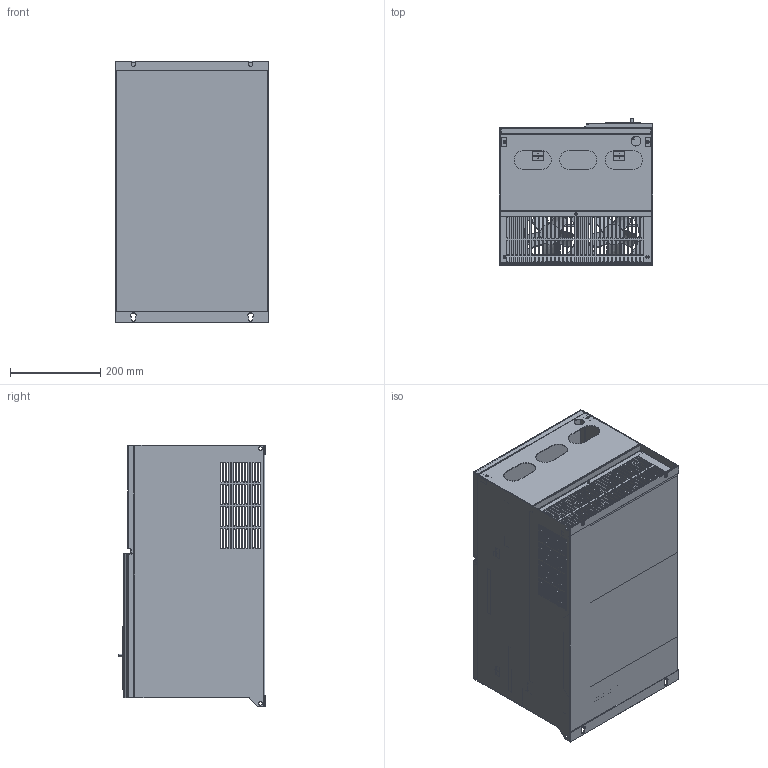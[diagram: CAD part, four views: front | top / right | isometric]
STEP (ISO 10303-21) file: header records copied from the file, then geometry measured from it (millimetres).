
FILE_DESCRIPTION (( 'STEP AP214' ), '1' );
FILE_NAME ('ﾂ-90ﾊ-ﾍ75ﾊ-380-0-0; ﾂ-110ﾊ-ﾍ90ﾊ-380-0-0; ﾂ-132ﾊ-ﾍ110ﾊ-380-0-0.STEP', '2022-06-04T08:33:59', ( '' ), ( '' ), 'SwSTEP 2.0', 'SolidWorks 2018', '' );
FILE_SCHEMA (( 'AUTOMOTIVE_DESIGN' ));
Length unit declared in the file: millimetre
Products named in the file (48): E102-075-310___ _____________ _____________^E102-075-310_ASM_E102-075-201_ASM_ﾂ-90ﾊ-ﾍ75ﾊ-380-0-0; ﾂ-110ﾊ-ﾍ90ﾊ-380-0-0; ﾂ-132ﾊ-ﾍ110ﾊ-380-0-0(2)_ﾂ-90ﾊ-ﾍ75ﾊ-380-0-0; ﾂ-110ﾊ-ﾍ90ﾊ-380-0-0; ﾂ-132ﾊ~; E102-075-301_ASM^E102-075-201_ASM_ﾂ-90ﾊ-ﾍ75ﾊ-380-0-0; ﾂ-110ﾊ-ﾍ90ﾊ-380-0-0; ﾂ-132ﾊ-ﾍ110ﾊ-380-0-0(2)_ﾂ-90ﾊ-ﾍ75ﾊ-380-0-0; ﾂ-110ﾊ-ﾍ90ﾊ-380-0-0; ﾂ-132ﾊ-ﾍ110ﾊ-380-0-0; E102-075-311___ _____________ _____________^E102-075-311_ASM_ﾂ-90ﾊ-ﾍ75ﾊ-380-0-0; ﾂ-110ﾊ-ﾍ90ﾊ-380-0-0; ﾂ-132ﾊ-ﾍ110ﾊ-380-0-0(2)_ﾂ-90ﾊ-ﾍ75ﾊ-380-0-0; ﾂ-110ﾊ-ﾍ90ﾊ-380-0-0; ﾂ-132ﾊ-ﾍ110ﾊ-380-0-0; E180-018-305_ASM_2^E102-075-201_ASM_ﾂ-90ﾊ-ﾍ75ﾊ-380-0-0; ﾂ-110ﾊ-ﾍ90ﾊ-380-0-0; ﾂ-132ﾊ-ﾍ110ﾊ-380-0-0(2)_ﾂ-90ﾊ-ﾍ75ﾊ-380-0-0; ﾂ-110ﾊ-ﾍ90ﾊ-380-0-0; ﾂ-132ﾊ-ﾍ110ﾊ-380-0-0; S-M4-1_3___ _____________ _____________^E102-075-301_ASM_E102-075-201_ASM_ﾂ-90ﾊ-ﾍ75ﾊ-380-0-0; ﾂ-110ﾊ-ﾍ90ﾊ-380-0-0; ﾂ-132ﾊ-ﾍ110ﾊ-380-0-0(2)_ﾂ-90ﾊ-ﾍ75ﾊ-380-0-0; ﾂ-110ﾊ-ﾍ90ﾊ-380-0-0; ﾂ-132ﾊ-ﾍ11~; E102-075-318_A1_ASM^ﾂ-90ﾊ-ﾍ75ﾊ-380-0-0; ﾂ-110ﾊ-ﾍ90ﾊ-380-0-0; ﾂ-132ﾊ-ﾍ110ﾊ-380-0-0(2)_ﾂ-90ﾊ-ﾍ75ﾊ-380-0-0; ﾂ-110ﾊ-ﾍ90ﾊ-380-0-0; ﾂ-132ﾊ-ﾍ110ﾊ-380-0-0; E180-018-305_2___ _____________ _____________^E180-018-305_ASM_2_E102-075-201_ASM_ﾂ-90ﾊ-ﾍ75ﾊ-380-0-0; ﾂ-110ﾊ-ﾍ90ﾊ-380-0-0; ﾂ-132ﾊ-ﾍ110ﾊ-380-0-0(2)_ﾂ-90ﾊ-ﾍ75ﾊ-380-0-0; ﾂ-110ﾊ-ﾍ90ﾊ-380-0-0; ﾂ-~; E102-075-301___ _____________ _____________^E102-075-301_ASM_E102-075-201_ASM_ﾂ-90ﾊ-ﾍ75ﾊ-380-0-0; ﾂ-110ﾊ-ﾍ90ﾊ-380-0-0; ﾂ-132ﾊ-ﾍ110ﾊ-380-0-0(2)_ﾂ-90ﾊ-ﾍ75ﾊ-380-0-0; ﾂ-110ﾊ-ﾍ90ﾊ-380-0-0; ﾂ-132ﾊ~; E102-075-318_A1___ _____________ _____________^E102-075-318_A1_ASM_ﾂ-90ﾊ-ﾍ75ﾊ-380-0-0; ﾂ-110ﾊ-ﾍ90ﾊ-380-0-0; ﾂ-132ﾊ-ﾍ110ﾊ-380-0-0(2)_ﾂ-90ﾊ-ﾍ75ﾊ-380-0-0; ﾂ-110ﾊ-ﾍ90ﾊ-380-0-0; ﾂ-132ﾊ-ﾍ110ﾊ-380-~; E102-075-309_ASM^E102-075-201_ASM_ﾂ-90ﾊ-ﾍ75ﾊ-380-0-0; ﾂ-110ﾊ-ﾍ90ﾊ-380-0-0; ﾂ-132ﾊ-ﾍ110ﾊ-380-0-0(2)_ﾂ-90ﾊ-ﾍ75ﾊ-380-0-0; ﾂ-110ﾊ-ﾍ90ﾊ-380-0-0; ﾂ-132ﾊ-ﾍ110ﾊ-380-0-0; CDI-9200_ASM_1^ﾂ-90ﾊ-ﾍ75ﾊ-380-0-0; ﾂ-110ﾊ-ﾍ90ﾊ-380-0-0; ﾂ-132ﾊ-ﾍ110ﾊ-380-0-0(2)_ﾂ-90ﾊ-ﾍ75ﾊ-380-0-0; ﾂ-110ﾊ-ﾍ90ﾊ-380-0-0; ﾂ-132ﾊ-ﾍ110ﾊ-380-0-0; E102-075-309___ _____________ _____________^E102-075-309_ASM_E102-075-201_ASM_ﾂ-90ﾊ-ﾍ75ﾊ-380-0-0; ﾂ-110ﾊ-ﾍ90ﾊ-380-0-0; ﾂ-132ﾊ-ﾍ110ﾊ-380-0-0(2)_ﾂ-90ﾊ-ﾍ75ﾊ-380-0-0; ﾂ-110ﾊ-ﾍ90ﾊ-380-0-0; ﾂ-132ﾊ~; ﾂ-90ﾊ-ﾍ75ﾊ-380-0-0; ﾂ-110ﾊ-ﾍ90ﾊ-380-0-0; ﾂ-132ﾊ-ﾍ110ﾊ-380-0-0; CDI-9200-805_1___ _____________ _____________^CDI-9200_ASM_1_ﾂ-90ﾊ-ﾍ75ﾊ-380-0-0; ﾂ-110ﾊ-ﾍ90ﾊ-380-0-0; ﾂ-132ﾊ-ﾍ110ﾊ-380-0-0(2)_ﾂ-90ﾊ-ﾍ75ﾊ-380-0-0; ﾂ-110ﾊ-ﾍ90ﾊ-380-0-0; ﾂ-132ﾊ-ﾍ110ﾊ-380-0-0; E102-075-308_ASM^E102-075-201_ASM_ﾂ-90ﾊ-ﾍ75ﾊ-380-0-0; ﾂ-110ﾊ-ﾍ90ﾊ-380-0-0; ﾂ-132ﾊ-ﾍ110ﾊ-380-0-0(2)_ﾂ-90ﾊ-ﾍ75ﾊ-380-0-0; ﾂ-110ﾊ-ﾍ90ﾊ-380-0-0; ﾂ-132ﾊ-ﾍ110ﾊ-380-0-0; CDI-9200_PD_1___ _____________ _____________^CDI-9200_ASM_1_ﾂ-90ﾊ-ﾍ75ﾊ-380-0-0; ﾂ-110ﾊ-ﾍ90ﾊ-380-0-0; ﾂ-132ﾊ-ﾍ110ﾊ-380-0-0(2)_ﾂ-90ﾊ-ﾍ75ﾊ-380-0-0; ﾂ-110ﾊ-ﾍ90ﾊ-380-0-0; ﾂ-132ﾊ-ﾍ110ﾊ-380-0-0; S-M4-1_3___ _____________ _____________^E102-075-308_ASM_E102-075-201_ASM_ﾂ-90ﾊ-ﾍ75ﾊ-380-0-0; ﾂ-110ﾊ-ﾍ90ﾊ-380-0-0; ﾂ-132ﾊ-ﾍ110ﾊ-380-0-0(2)_ﾂ-90ﾊ-ﾍ75ﾊ-380-0-0; ﾂ-110ﾊ-ﾍ90ﾊ-380-0-0; ﾂ-132ﾊ-ﾍ11~; CDI-9200_2___ _____________ _____________^CDI-9200_ASM_1_ﾂ-90ﾊ-ﾍ75ﾊ-380-0-0; ﾂ-110ﾊ-ﾍ90ﾊ-380-0-0; ﾂ-132ﾊ-ﾍ110ﾊ-380-0-0(2)_ﾂ-90ﾊ-ﾍ75ﾊ-380-0-0; ﾂ-110ﾊ-ﾍ90ﾊ-380-0-0; ﾂ-132ﾊ-ﾍ110ﾊ-380-0-0; E102-075-308___ _____________ _____________^E102-075-308_ASM_E102-075-201_ASM_ﾂ-90ﾊ-ﾍ75ﾊ-380-0-0; ﾂ-110ﾊ-ﾍ90ﾊ-380-0-0; ﾂ-132ﾊ-ﾍ110ﾊ-380-0-0(2)_ﾂ-90ﾊ-ﾍ75ﾊ-380-0-0; ﾂ-110ﾊ-ﾍ90ﾊ-380-0-0; ﾂ-132ﾊ~; CDI-9200-803_F1_2___ _____________ _____________^CDI-9200_ASM_1_ﾂ-90ﾊ-ﾍ75ﾊ-380-0-0; ﾂ-110ﾊ-ﾍ90ﾊ-380-0-0; ﾂ-132ﾊ-ﾍ110ﾊ-380-0-0(2)_ﾂ-90ﾊ-ﾍ75ﾊ-380-0-0; ﾂ-110ﾊ-ﾍ90ﾊ-380-0-0; ﾂ-132ﾊ-ﾍ110ﾊ-380-0-0; E102-075-305_ASM^E102-075-201_ASM_ﾂ-90ﾊ-ﾍ75ﾊ-380-0-0; ﾂ-110ﾊ-ﾍ90ﾊ-380-0-0; ﾂ-132ﾊ-ﾍ110ﾊ-380-0-0(2)_ﾂ-90ﾊ-ﾍ75ﾊ-380-0-0; ﾂ-110ﾊ-ﾍ90ﾊ-380-0-0; ﾂ-132ﾊ-ﾍ110ﾊ-380-0-0; CDI-9200-802_1___ _____________ _____________^CDI-9200_ASM_1_ﾂ-90ﾊ-ﾍ75ﾊ-380-0-0; ﾂ-110ﾊ-ﾍ90ﾊ-380-0-0; ﾂ-132ﾊ-ﾍ110ﾊ-380-0-0(2)_ﾂ-90ﾊ-ﾍ75ﾊ-380-0-0; ﾂ-110ﾊ-ﾍ90ﾊ-380-0-0; ﾂ-132ﾊ-ﾍ110ﾊ-380-0-0; S-M4-1_3___ _____________ _____________^E102-075-305_ASM_E102-075-201_ASM_ﾂ-90ﾊ-ﾍ75ﾊ-380-0-0; ﾂ-110ﾊ-ﾍ90ﾊ-380-0-0; ﾂ-132ﾊ-ﾍ110ﾊ-380-0-0(2)_ﾂ-90ﾊ-ﾍ75ﾊ-380-0-0; ﾂ-110ﾊ-ﾍ90ﾊ-380-0-0; ﾂ-132ﾊ-ﾍ11~; CDI-9200-801_1___ _____________ _____________^CDI-9200_ASM_1_ﾂ-90ﾊ-ﾍ75ﾊ-380-0-0; ﾂ-110ﾊ-ﾍ90ﾊ-380-0-0; ﾂ-132ﾊ-ﾍ110ﾊ-380-0-0(2)_ﾂ-90ﾊ-ﾍ75ﾊ-380-0-0; ﾂ-110ﾊ-ﾍ90ﾊ-380-0-0; ﾂ-132ﾊ-ﾍ110ﾊ-380-0-0; E102-075-305___ _____________ _____________^E102-075-305_ASM_E102-075-201_ASM_ﾂ-90ﾊ-ﾍ75ﾊ-380-0-0; ﾂ-110ﾊ-ﾍ90ﾊ-380-0-0; ﾂ-132ﾊ-ﾍ110ﾊ-380-0-0(2)_ﾂ-90ﾊ-ﾍ75ﾊ-380-0-0; ﾂ-110ﾊ-ﾍ90ﾊ-380-0-0; ﾂ-132ﾊ~; E102-075-314_ASM^ﾂ-90ﾊ-ﾍ75ﾊ-380-0-0; ﾂ-110ﾊ-ﾍ90ﾊ-380-0-0; ﾂ-132ﾊ-ﾍ110ﾊ-380-0-0(2)_ﾂ-90ﾊ-ﾍ75ﾊ-380-0-0; ﾂ-110ﾊ-ﾍ90ﾊ-380-0-0; ﾂ-132ﾊ-ﾍ110ﾊ-380-0-0; E102-075-304_ASM^E102-075-201_ASM_ﾂ-90ﾊ-ﾍ75ﾊ-380-0-0; ﾂ-110ﾊ-ﾍ90ﾊ-380-0-0; ﾂ-132ﾊ-ﾍ110ﾊ-380-0-0(2)_ﾂ-90ﾊ-ﾍ75ﾊ-380-0-0; ﾂ-110ﾊ-ﾍ90ﾊ-380-0-0; ﾂ-132ﾊ-ﾍ110ﾊ-380-0-0; E102-075-314___ _____________ _____________^E102-075-314_ASM_ﾂ-90ﾊ-ﾍ75ﾊ-380-0-0; ﾂ-110ﾊ-ﾍ90ﾊ-380-0-0; ﾂ-132ﾊ-ﾍ110ﾊ-380-0-0(2)_ﾂ-90ﾊ-ﾍ75ﾊ-380-0-0; ﾂ-110ﾊ-ﾍ90ﾊ-380-0-0; ﾂ-132ﾊ-ﾍ110ﾊ-380-0-0; S-M4-1_3___ _____________ _____________^E102-075-304_ASM_E102-075-201_ASM_ﾂ-90ﾊ-ﾍ75ﾊ-380-0-0; ﾂ-110ﾊ-ﾍ90ﾊ-380-0-0; ﾂ-132ﾊ-ﾍ110ﾊ-380-0-0(2)_ﾂ-90ﾊ-ﾍ75ﾊ-380-0-0; ﾂ-110ﾊ-ﾍ90ﾊ-380-0-0; ﾂ-132ﾊ-ﾍ11~; E102-075-317_ASM^ﾂ-90ﾊ-ﾍ75ﾊ-380-0-0; ﾂ-110ﾊ-ﾍ90ﾊ-380-0-0; ﾂ-132ﾊ-ﾍ110ﾊ-380-0-0(2)_ﾂ-90ﾊ-ﾍ75ﾊ-380-0-0; ﾂ-110ﾊ-ﾍ90ﾊ-380-0-0; ﾂ-132ﾊ-ﾍ110ﾊ-380-0-0; E102-075-304___ _____________ _____________^E102-075-304_ASM_E102-075-201_ASM_ﾂ-90ﾊ-ﾍ75ﾊ-380-0-0; ﾂ-110ﾊ-ﾍ90ﾊ-380-0-0; ﾂ-132ﾊ-ﾍ110ﾊ-380-0-0(2)_ﾂ-90ﾊ-ﾍ75ﾊ-380-0-0; ﾂ-110ﾊ-ﾍ90ﾊ-380-0-0; ﾂ-132ﾊ~; E102-075-317___ _____________ _____________^E102-075-317_ASM_ﾂ-90ﾊ-ﾍ75ﾊ-380-0-0; ﾂ-110ﾊ-ﾍ90ﾊ-380-0-0; ﾂ-132ﾊ-ﾍ110ﾊ-380-0-0(2)_ﾂ-90ﾊ-ﾍ75ﾊ-380-0-0; ﾂ-110ﾊ-ﾍ90ﾊ-380-0-0; ﾂ-132ﾊ-ﾍ110ﾊ-380-0-0; E102-075-303_ASM^E102-075-201_ASM_ﾂ-90ﾊ-ﾍ75ﾊ-380-0-0; ﾂ-110ﾊ-ﾍ90ﾊ-380-0-0; ﾂ-132ﾊ-ﾍ110ﾊ-380-0-0(2)_ﾂ-90ﾊ-ﾍ75ﾊ-380-0-0; ﾂ-110ﾊ-ﾍ90ﾊ-380-0-0; ﾂ-132ﾊ-ﾍ110ﾊ-380-0-0; E102-075-201_ASM^ﾂ-90ﾊ-ﾍ75ﾊ-380-0-0; ﾂ-110ﾊ-ﾍ90ﾊ-380-0-0; ﾂ-132ﾊ-ﾍ110ﾊ-380-0-0(2)_ﾂ-90ﾊ-ﾍ75ﾊ-380-0-0; ﾂ-110ﾊ-ﾍ90ﾊ-380-0-0; ﾂ-132ﾊ-ﾍ110ﾊ-380-0-0; S-M4-1_3___ _____________ _____________^E102-075-303_ASM_E102-075-201_ASM_ﾂ-90ﾊ-ﾍ75ﾊ-380-0-0; ﾂ-110ﾊ-ﾍ90ﾊ-380-0-0; ﾂ-132ﾊ-ﾍ110ﾊ-380-0-0(2)_ﾂ-90ﾊ-ﾍ75ﾊ-380-0-0; ﾂ-110ﾊ-ﾍ90ﾊ-380-0-0; ﾂ-132ﾊ-ﾍ110~; E102-075-307___ _____________ _____________^E102-075-201_ASM_ﾂ-90ﾊ-ﾍ75ﾊ-380-0-0; ﾂ-110ﾊ-ﾍ90ﾊ-380-0-0; ﾂ-132ﾊ-ﾍ110ﾊ-380-0-0(2)_ﾂ-90ﾊ-ﾍ75ﾊ-380-0-0; ﾂ-110ﾊ-ﾍ90ﾊ-380-0-0; ﾂ-132ﾊ-ﾍ110ﾊ-380-0-0; E102-075-303___ _____________ _____________^E102-075-303_ASM_E102-075-201_ASM_ﾂ-90ﾊ-ﾍ75ﾊ-380-0-0; ﾂ-110ﾊ-ﾍ90ﾊ-380-0-0; ﾂ-132ﾊ-ﾍ110ﾊ-380-0-0(2)_ﾂ-90ﾊ-ﾍ75ﾊ-380-0-0; ﾂ-110ﾊ-ﾍ90ﾊ-380-0-0; ﾂ-132ﾊ-~; ﾂ-90ﾊ-ﾍ75ﾊ-380-0-0; ﾂ-110ﾊ-ﾍ90ﾊ-380-0-0; ﾂ-132ﾊ-ﾍ110ﾊ-380-0-0(2)^ﾂ-90ﾊ-ﾍ75ﾊ-380-0-0; ﾂ-110ﾊ-ﾍ90ﾊ-380-0-0; ﾂ-132ﾊ-ﾍ110ﾊ-380-0-0; E102-075-306___ _____________ _____________^E102-075-201_ASM_ﾂ-90ﾊ-ﾍ75ﾊ-380-0-0; ﾂ-110ﾊ-ﾍ90ﾊ-380-0-0; ﾂ-132ﾊ-ﾍ110ﾊ-380-0-0(2)_ﾂ-90ﾊ-ﾍ75ﾊ-380-0-0; ﾂ-110ﾊ-ﾍ90ﾊ-380-0-0; ﾂ-132ﾊ-ﾍ110ﾊ-380-0-0; E102-075-302_ASM^E102-075-201_ASM_ﾂ-90ﾊ-ﾍ75ﾊ-380-0-0; ﾂ-110ﾊ-ﾍ90ﾊ-380-0-0; ﾂ-132ﾊ-ﾍ110ﾊ-380-0-0(2)_ﾂ-90ﾊ-ﾍ75ﾊ-380-0-0; ﾂ-110ﾊ-ﾍ90ﾊ-380-0-0; ﾂ-132ﾊ-ﾍ110ﾊ-380-0-0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
Assembly tree (88 placements, depth 5):
  ﾂ-90ﾊ-ﾍ75ﾊ-380-0-0; ﾂ-110ﾊ-ﾍ90ﾊ-380-0-0; ﾂ-132ﾊ-ﾍ110ﾊ-380-0-0
    ﾂ-90ﾊ-ﾍ75ﾊ-380-0-0; ﾂ-110ﾊ-ﾍ90ﾊ-380-0-0; ﾂ-132ﾊ-ﾍ110ﾊ-380-0-0(2)^ﾂ-90ﾊ-ﾍ75ﾊ-380-0-0; ﾂ-110ﾊ-ﾍ90ﾊ-380-0-0; ﾂ-132ﾊ-ﾍ110ﾊ-380-0-0
      E102-075-201_ASM^ﾂ-90ﾊ-ﾍ75ﾊ-380-0-0; ﾂ-110ﾊ-ﾍ90ﾊ-380-0-0; ﾂ-132ﾊ-ﾍ110ﾊ-380-0-0(2)_ﾂ-90ﾊ-ﾍ75ﾊ-380-0-0; ﾂ-110ﾊ-ﾍ90ﾊ-380-0-0; ﾂ-132ﾊ-ﾍ110ﾊ-380-0-0
        E102-075-301_ASM^E102-075-201_ASM_ﾂ-90ﾊ-ﾍ75ﾊ-380-0-0; ﾂ-110ﾊ-ﾍ90ﾊ-380-0-0; ﾂ-132ﾊ-ﾍ110ﾊ-380-0-0(2)_ﾂ-90ﾊ-ﾍ75ﾊ-380-0-0; ﾂ-110ﾊ-ﾍ90ﾊ-380-0-0; ﾂ-132ﾊ-ﾍ110ﾊ-380-0-0
          E102-075-301___ _____________ _____________^E102-075-301_ASM_E102-075-201_ASM_ﾂ-90ﾊ-ﾍ75ﾊ-380-0-0; ﾂ-110ﾊ-ﾍ90ﾊ-380-0-0; ﾂ-132ﾊ-ﾍ110ﾊ-380-0-0(2)_ﾂ-90ﾊ-ﾍ75ﾊ-380-0-0; ﾂ-110ﾊ-ﾍ90ﾊ-380-0-0; ﾂ-132ﾊ~
          S-M4-1_3___ _____________ _____________^E102-075-301_ASM_E102-075-201_ASM_ﾂ-90ﾊ-ﾍ75ﾊ-380-0-0; ﾂ-110ﾊ-ﾍ90ﾊ-380-0-0; ﾂ-132ﾊ-ﾍ110ﾊ-380-0-0(2)_ﾂ-90ﾊ-ﾍ75ﾊ-380-0-0; ﾂ-110ﾊ-ﾍ90ﾊ-380-0-0; ﾂ-132ﾊ-ﾍ11~  x2
        E102-075-302_ASM^E102-075-201_ASM_ﾂ-90ﾊ-ﾍ75ﾊ-380-0-0; ﾂ-110ﾊ-ﾍ90ﾊ-380-0-0; ﾂ-132ﾊ-ﾍ110ﾊ-380-0-0(2)_ﾂ-90ﾊ-ﾍ75ﾊ-380-0-0; ﾂ-110ﾊ-ﾍ90ﾊ-380-0-0; ﾂ-132ﾊ-ﾍ110ﾊ-380-0-0
          E102-075-302___ _____________ _____________^E102-075-302_ASM_E102-075-201_ASM_ﾂ-90ﾊ-ﾍ75ﾊ-380-0-0; ﾂ-110ﾊ-ﾍ90ﾊ-380-0-0; ﾂ-132ﾊ-ﾍ110ﾊ-380-0-0(2)_ﾂ-90ﾊ-ﾍ75ﾊ-380-0-0; ﾂ-110ﾊ-ﾍ90ﾊ-380-0-0; ﾂ-132ﾊ~
          S-M4-1_3___ _____________ _____________^E102-075-302_ASM_E102-075-201_ASM_ﾂ-90ﾊ-ﾍ75ﾊ-380-0-0; ﾂ-110ﾊ-ﾍ90ﾊ-380-0-0; ﾂ-132ﾊ-ﾍ110ﾊ-380-0-0(2)_ﾂ-90ﾊ-ﾍ75ﾊ-380-0-0; ﾂ-110ﾊ-ﾍ90ﾊ-380-0-0; ﾂ-132ﾊ-ﾍ11~  x3
        E102-075-303_ASM^E102-075-201_ASM_ﾂ-90ﾊ-ﾍ75ﾊ-380-0-0; ﾂ-110ﾊ-ﾍ90ﾊ-380-0-0; ﾂ-132ﾊ-ﾍ110ﾊ-380-0-0(2)_ﾂ-90ﾊ-ﾍ75ﾊ-380-0-0; ﾂ-110ﾊ-ﾍ90ﾊ-380-0-0; ﾂ-132ﾊ-ﾍ110ﾊ-380-0-0
          E102-075-303___ _____________ _____________^E102-075-303_ASM_E102-075-201_ASM_ﾂ-90ﾊ-ﾍ75ﾊ-380-0-0; ﾂ-110ﾊ-ﾍ90ﾊ-380-0-0; ﾂ-132ﾊ-ﾍ110ﾊ-380-0-0(2)_ﾂ-90ﾊ-ﾍ75ﾊ-380-0-0; ﾂ-110ﾊ-ﾍ90ﾊ-380-0-0; ﾂ-132ﾊ-~
          S-M4-1_3___ _____________ _____________^E102-075-303_ASM_E102-075-201_ASM_ﾂ-90ﾊ-ﾍ75ﾊ-380-0-0; ﾂ-110ﾊ-ﾍ90ﾊ-380-0-0; ﾂ-132ﾊ-ﾍ110ﾊ-380-0-0(2)_ﾂ-90ﾊ-ﾍ75ﾊ-380-0-0; ﾂ-110ﾊ-ﾍ90ﾊ-380-0-0; ﾂ-132ﾊ-ﾍ110~  x15
        E102-075-304_ASM^E102-075-201_ASM_ﾂ-90ﾊ-ﾍ75ﾊ-380-0-0; ﾂ-110ﾊ-ﾍ90ﾊ-380-0-0; ﾂ-132ﾊ-ﾍ110ﾊ-380-0-0(2)_ﾂ-90ﾊ-ﾍ75ﾊ-380-0-0; ﾂ-110ﾊ-ﾍ90ﾊ-380-0-0; ﾂ-132ﾊ-ﾍ110ﾊ-380-0-0  x2
          E102-075-304___ _____________ _____________^E102-075-304_ASM_E102-075-201_ASM_ﾂ-90ﾊ-ﾍ75ﾊ-380-0-0; ﾂ-110ﾊ-ﾍ90ﾊ-380-0-0; ﾂ-132ﾊ-ﾍ110ﾊ-380-0-0(2)_ﾂ-90ﾊ-ﾍ75ﾊ-380-0-0; ﾂ-110ﾊ-ﾍ90ﾊ-380-0-0; ﾂ-132ﾊ~
          S-M4-1_3___ _____________ _____________^E102-075-304_ASM_E102-075-201_ASM_ﾂ-90ﾊ-ﾍ75ﾊ-380-0-0; ﾂ-110ﾊ-ﾍ90ﾊ-380-0-0; ﾂ-132ﾊ-ﾍ110ﾊ-380-0-0(2)_ﾂ-90ﾊ-ﾍ75ﾊ-380-0-0; ﾂ-110ﾊ-ﾍ90ﾊ-380-0-0; ﾂ-132ﾊ-ﾍ11~
        E102-075-305_ASM^E102-075-201_ASM_ﾂ-90ﾊ-ﾍ75ﾊ-380-0-0; ﾂ-110ﾊ-ﾍ90ﾊ-380-0-0; ﾂ-132ﾊ-ﾍ110ﾊ-380-0-0(2)_ﾂ-90ﾊ-ﾍ75ﾊ-380-0-0; ﾂ-110ﾊ-ﾍ90ﾊ-380-0-0; ﾂ-132ﾊ-ﾍ110ﾊ-380-0-0  x2
          E102-075-305___ _____________ _____________^E102-075-305_ASM_E102-075-201_ASM_ﾂ-90ﾊ-ﾍ75ﾊ-380-0-0; ﾂ-110ﾊ-ﾍ90ﾊ-380-0-0; ﾂ-132ﾊ-ﾍ110ﾊ-380-0-0(2)_ﾂ-90ﾊ-ﾍ75ﾊ-380-0-0; ﾂ-110ﾊ-ﾍ90ﾊ-380-0-0; ﾂ-132ﾊ~
          S-M4-1_3___ _____________ _____________^E102-075-305_ASM_E102-075-201_ASM_ﾂ-90ﾊ-ﾍ75ﾊ-380-0-0; ﾂ-110ﾊ-ﾍ90ﾊ-380-0-0; ﾂ-132ﾊ-ﾍ110ﾊ-380-0-0(2)_ﾂ-90ﾊ-ﾍ75ﾊ-380-0-0; ﾂ-110ﾊ-ﾍ90ﾊ-380-0-0; ﾂ-132ﾊ-ﾍ11~
        E102-075-308_ASM^E102-075-201_ASM_ﾂ-90ﾊ-ﾍ75ﾊ-380-0-0; ﾂ-110ﾊ-ﾍ90ﾊ-380-0-0; ﾂ-132ﾊ-ﾍ110ﾊ-380-0-0(2)_ﾂ-90ﾊ-ﾍ75ﾊ-380-0-0; ﾂ-110ﾊ-ﾍ90ﾊ-380-0-0; ﾂ-132ﾊ-ﾍ110ﾊ-380-0-0  x2
          E102-075-308___ _____________ _____________^E102-075-308_ASM_E102-075-201_ASM_ﾂ-90ﾊ-ﾍ75ﾊ-380-0-0; ﾂ-110ﾊ-ﾍ90ﾊ-380-0-0; ﾂ-132ﾊ-ﾍ110ﾊ-380-0-0(2)_ﾂ-90ﾊ-ﾍ75ﾊ-380-0-0; ﾂ-110ﾊ-ﾍ90ﾊ-380-0-0; ﾂ-132ﾊ~
          S-M4-1_3___ _____________ _____________^E102-075-308_ASM_E102-075-201_ASM_ﾂ-90ﾊ-ﾍ75ﾊ-380-0-0; ﾂ-110ﾊ-ﾍ90ﾊ-380-0-0; ﾂ-132ﾊ-ﾍ110ﾊ-380-0-0(2)_ﾂ-90ﾊ-ﾍ75ﾊ-380-0-0; ﾂ-110ﾊ-ﾍ90ﾊ-380-0-0; ﾂ-132ﾊ-ﾍ11~
        E102-075-309_ASM^E102-075-201_ASM_ﾂ-90ﾊ-ﾍ75ﾊ-380-0-0; ﾂ-110ﾊ-ﾍ90ﾊ-380-0-0; ﾂ-132ﾊ-ﾍ110ﾊ-380-0-0(2)_ﾂ-90ﾊ-ﾍ75ﾊ-380-0-0; ﾂ-110ﾊ-ﾍ90ﾊ-380-0-0; ﾂ-132ﾊ-ﾍ110ﾊ-380-0-0
          E102-075-309___ _____________ _____________^E102-075-309_ASM_E102-075-201_ASM_ﾂ-90ﾊ-ﾍ75ﾊ-380-0-0; ﾂ-110ﾊ-ﾍ90ﾊ-380-0-0; ﾂ-132ﾊ-ﾍ110ﾊ-380-0-0(2)_ﾂ-90ﾊ-ﾍ75ﾊ-380-0-0; ﾂ-110ﾊ-ﾍ90ﾊ-380-0-0; ﾂ-132ﾊ~
        E180-018-305_ASM_2^E102-075-201_ASM_ﾂ-90ﾊ-ﾍ75ﾊ-380-0-0; ﾂ-110ﾊ-ﾍ90ﾊ-380-0-0; ﾂ-132ﾊ-ﾍ110ﾊ-380-0-0(2)_ﾂ-90ﾊ-ﾍ75ﾊ-380-0-0; ﾂ-110ﾊ-ﾍ90ﾊ-380-0-0; ﾂ-132ﾊ-ﾍ110ﾊ-380-0-0  x7
          E180-018-305_2___ _____________ _____________^E180-018-305_ASM_2_E102-075-201_ASM_ﾂ-90ﾊ-ﾍ75ﾊ-380-0-0; ﾂ-110ﾊ-ﾍ90ﾊ-380-0-0; ﾂ-132ﾊ-ﾍ110ﾊ-380-0-0(2)_ﾂ-90ﾊ-ﾍ75ﾊ-380-0-0; ﾂ-110ﾊ-ﾍ90ﾊ-380-0-0; ﾂ-~
        E102-075-310_ASM^E102-075-201_ASM_ﾂ-90ﾊ-ﾍ75ﾊ-380-0-0; ﾂ-110ﾊ-ﾍ90ﾊ-380-0-0; ﾂ-132ﾊ-ﾍ110ﾊ-380-0-0(2)_ﾂ-90ﾊ-ﾍ75ﾊ-380-0-0; ﾂ-110ﾊ-ﾍ90ﾊ-380-0-0; ﾂ-132ﾊ-ﾍ110ﾊ-380-0-0  x4
          E102-075-310___ _____________ _____________^E102-075-310_ASM_E102-075-201_ASM_ﾂ-90ﾊ-ﾍ75ﾊ-380-0-0; ﾂ-110ﾊ-ﾍ90ﾊ-380-0-0; ﾂ-132ﾊ-ﾍ110ﾊ-380-0-0(2)_ﾂ-90ﾊ-ﾍ75ﾊ-380-0-0; ﾂ-110ﾊ-ﾍ90ﾊ-380-0-0; ﾂ-132ﾊ~
          S-M4-1_3___ _____________ _____________^E102-075-310_ASM_E102-075-201_ASM_ﾂ-90ﾊ-ﾍ75ﾊ-380-0-0; ﾂ-110ﾊ-ﾍ90ﾊ-380-0-0; ﾂ-132ﾊ-ﾍ110ﾊ-380-0-0(2)_ﾂ-90ﾊ-ﾍ75ﾊ-380-0-0; ﾂ-110ﾊ-ﾍ90ﾊ-380-0-0; ﾂ-132ﾊ-ﾍ11~
        E102-075-306___ _____________ _____________^E102-075-201_ASM_ﾂ-90ﾊ-ﾍ75ﾊ-380-0-0; ﾂ-110ﾊ-ﾍ90ﾊ-380-0-0; ﾂ-132ﾊ-ﾍ110ﾊ-380-0-0(2)_ﾂ-90ﾊ-ﾍ75ﾊ-380-0-0; ﾂ-110ﾊ-ﾍ90ﾊ-380-0-0; ﾂ-132ﾊ-ﾍ110ﾊ-380-0-0
        E102-075-307___ _____________ _____________^E102-075-201_ASM_ﾂ-90ﾊ-ﾍ75ﾊ-380-0-0; ﾂ-110ﾊ-ﾍ90ﾊ-380-0-0; ﾂ-132ﾊ-ﾍ110ﾊ-380-0-0(2)_ﾂ-90ﾊ-ﾍ75ﾊ-380-0-0; ﾂ-110ﾊ-ﾍ90ﾊ-380-0-0; ﾂ-132ﾊ-ﾍ110ﾊ-380-0-0
      E102-075-317_ASM^ﾂ-90ﾊ-ﾍ75ﾊ-380-0-0; ﾂ-110ﾊ-ﾍ90ﾊ-380-0-0; ﾂ-132ﾊ-ﾍ110ﾊ-380-0-0(2)_ﾂ-90ﾊ-ﾍ75ﾊ-380-0-0; ﾂ-110ﾊ-ﾍ90ﾊ-380-0-0; ﾂ-132ﾊ-ﾍ110ﾊ-380-0-0
        E102-075-317___ _____________ _____________^E102-075-317_ASM_ﾂ-90ﾊ-ﾍ75ﾊ-380-0-0; ﾂ-110ﾊ-ﾍ90ﾊ-380-0-0; ﾂ-132ﾊ-ﾍ110ﾊ-380-0-0(2)_ﾂ-90ﾊ-ﾍ75ﾊ-380-0-0; ﾂ-110ﾊ-ﾍ90ﾊ-380-0-0; ﾂ-132ﾊ-ﾍ110ﾊ-380-0-0
      E102-075-314_ASM^ﾂ-90ﾊ-ﾍ75ﾊ-380-0-0; ﾂ-110ﾊ-ﾍ90ﾊ-380-0-0; ﾂ-132ﾊ-ﾍ110ﾊ-380-0-0(2)_ﾂ-90ﾊ-ﾍ75ﾊ-380-0-0; ﾂ-110ﾊ-ﾍ90ﾊ-380-0-0; ﾂ-132ﾊ-ﾍ110ﾊ-380-0-0
        E102-075-314___ _____________ _____________^E102-075-314_ASM_ﾂ-90ﾊ-ﾍ75ﾊ-380-0-0; ﾂ-110ﾊ-ﾍ90ﾊ-380-0-0; ﾂ-132ﾊ-ﾍ110ﾊ-380-0-0(2)_ﾂ-90ﾊ-ﾍ75ﾊ-380-0-0; ﾂ-110ﾊ-ﾍ90ﾊ-380-0-0; ﾂ-132ﾊ-ﾍ110ﾊ-380-0-0
        S-M4-1_3___ _____________ _____________^E102-075-314_ASM_ﾂ-90ﾊ-ﾍ75ﾊ-380-0-0; ﾂ-110ﾊ-ﾍ90ﾊ-380-0-0; ﾂ-132ﾊ-ﾍ110ﾊ-380-0-0(2)_ﾂ-90ﾊ-ﾍ75ﾊ-380-0-0; ﾂ-110ﾊ-ﾍ90ﾊ-380-0-0; ﾂ-132ﾊ-ﾍ110ﾊ-380-0-0  x2
      CDI-9200_ASM_1^ﾂ-90ﾊ-ﾍ75ﾊ-380-0-0; ﾂ-110ﾊ-ﾍ90ﾊ-380-0-0; ﾂ-132ﾊ-ﾍ110ﾊ-380-0-0(2)_ﾂ-90ﾊ-ﾍ75ﾊ-380-0-0; ﾂ-110ﾊ-ﾍ90ﾊ-380-0-0; ﾂ-132ﾊ-ﾍ110ﾊ-380-0-0
        CDI-9200-801_1___ _____________ _____________^CDI-9200_ASM_1_ﾂ-90ﾊ-ﾍ75ﾊ-380-0-0; ﾂ-110ﾊ-ﾍ90ﾊ-380-0-0; ﾂ-132ﾊ-ﾍ110ﾊ-380-0-0(2)_ﾂ-90ﾊ-ﾍ75ﾊ-380-0-0; ﾂ-110ﾊ-ﾍ90ﾊ-380-0-0; ﾂ-132ﾊ-ﾍ110ﾊ-380-0-0
        CDI-9200-802_1___ _____________ _____________^CDI-9200_ASM_1_ﾂ-90ﾊ-ﾍ75ﾊ-380-0-0; ﾂ-110ﾊ-ﾍ90ﾊ-380-0-0; ﾂ-132ﾊ-ﾍ110ﾊ-380-0-0(2)_ﾂ-90ﾊ-ﾍ75ﾊ-380-0-0; ﾂ-110ﾊ-ﾍ90ﾊ-380-0-0; ﾂ-132ﾊ-ﾍ110ﾊ-380-0-0
        CDI-9200-803_F1_2___ _____________ _____________^CDI-9200_ASM_1_ﾂ-90ﾊ-ﾍ75ﾊ-380-0-0; ﾂ-110ﾊ-ﾍ90ﾊ-380-0-0; ﾂ-132ﾊ-ﾍ110ﾊ-380-0-0(2)_ﾂ-90ﾊ-ﾍ75ﾊ-380-0-0; ﾂ-110ﾊ-ﾍ90ﾊ-380-0-0; ﾂ-132ﾊ-ﾍ110ﾊ-380-0-0
        CDI-9200_2___ _____________ _____________^CDI-9200_ASM_1_ﾂ-90ﾊ-ﾍ75ﾊ-380-0-0; ﾂ-110ﾊ-ﾍ90ﾊ-380-0-0; ﾂ-132ﾊ-ﾍ110ﾊ-380-0-0(2)_ﾂ-90ﾊ-ﾍ75ﾊ-380-0-0; ﾂ-110ﾊ-ﾍ90ﾊ-380-0-0; ﾂ-132ﾊ-ﾍ110ﾊ-380-0-0
        CDI-9200_PD_1___ _____________ _____________^CDI-9200_ASM_1_ﾂ-90ﾊ-ﾍ75ﾊ-380-0-0; ﾂ-110ﾊ-ﾍ90ﾊ-380-0-0; ﾂ-132ﾊ-ﾍ110ﾊ-380-0-0(2)_ﾂ-90ﾊ-ﾍ75ﾊ-380-0-0; ﾂ-110ﾊ-ﾍ90ﾊ-380-0-0; ﾂ-132ﾊ-ﾍ110ﾊ-380-0-0
        CDI-9200-805_1___ _____________ _____________^CDI-9200_ASM_1_ﾂ-90ﾊ-ﾍ75ﾊ-380-0-0; ﾂ-110ﾊ-ﾍ90ﾊ-380-0-0; ﾂ-132ﾊ-ﾍ110ﾊ-380-0-0(2)_ﾂ-90ﾊ-ﾍ75ﾊ-380-0-0; ﾂ-110ﾊ-ﾍ90ﾊ-380-0-0; ﾂ-132ﾊ-ﾍ110ﾊ-380-0-0
      E102-075-318_A1_ASM^ﾂ-90ﾊ-ﾍ75ﾊ-380-0-0; ﾂ-110ﾊ-ﾍ90ﾊ-380-0-0; ﾂ-132ﾊ-ﾍ110ﾊ-380-0-0(2)_ﾂ-90ﾊ-ﾍ75ﾊ-380-0-0; ﾂ-110ﾊ-ﾍ90ﾊ-380-0-0; ﾂ-132ﾊ-ﾍ110ﾊ-380-0-0
        E102-075-318_A1___ _____________ _____________^E102-075-318_A1_ASM_ﾂ-90ﾊ-ﾍ75ﾊ-380-0-0; ﾂ-110ﾊ-ﾍ90ﾊ-380-0-0; ﾂ-132ﾊ-ﾍ110ﾊ-380-0-0(2)_ﾂ-90ﾊ-ﾍ75ﾊ-380-0-0; ﾂ-110ﾊ-ﾍ90ﾊ-380-0-0; ﾂ-132ﾊ-ﾍ110ﾊ-380-~
      E102-075-311_ASM^ﾂ-90ﾊ-ﾍ75ﾊ-380-0-0; ﾂ-110ﾊ-ﾍ90ﾊ-380-0-0; ﾂ-132ﾊ-ﾍ110ﾊ-380-0-0(2)_ﾂ-90ﾊ-ﾍ75ﾊ-380-0-0; ﾂ-110ﾊ-ﾍ90ﾊ-380-0-0; ﾂ-132ﾊ-ﾍ110ﾊ-380-0-0
        E102-075-311___ _____________ _____________^E102-075-311_ASM_ﾂ-90ﾊ-ﾍ75ﾊ-380-0-0; ﾂ-110ﾊ-ﾍ90ﾊ-380-0-0; ﾂ-132ﾊ-ﾍ110ﾊ-380-0-0(2)_ﾂ-90ﾊ-ﾍ75ﾊ-380-0-0; ﾂ-110ﾊ-ﾍ90ﾊ-380-0-0; ﾂ-132ﾊ-ﾍ110ﾊ-380-0-0
        S-M4-1_3___ _____________ _____________^E102-075-311_ASM_ﾂ-90ﾊ-ﾍ75ﾊ-380-0-0; ﾂ-110ﾊ-ﾍ90ﾊ-380-0-0; ﾂ-132ﾊ-ﾍ110ﾊ-380-0-0(2)_ﾂ-90ﾊ-ﾍ75ﾊ-380-0-0; ﾂ-110ﾊ-ﾍ90ﾊ-380-0-0; ﾂ-132ﾊ-ﾍ110ﾊ-380-0-0  x8
        FAN_4C-230HB_A7___ _____________ _____________^E102-075-311_ASM_ﾂ-90ﾊ-ﾍ75ﾊ-380-0-0; ﾂ-110ﾊ-ﾍ90ﾊ-380-0-0; ﾂ-132ﾊ-ﾍ110ﾊ-380-0-0(2)_ﾂ-90ﾊ-ﾍ75ﾊ-380-0-0; ﾂ-110ﾊ-ﾍ90ﾊ-380-0-0; ﾂ-132ﾊ-ﾍ110ﾊ-380-0-0  x2
Bounding box: 340 x 327 x 580 mm (x, y, z)
Volume: 2032452.8 mm3; surface area: 2582282.3 mm2
Topology: 83 solids, 83 shells, 3845 faces, 10633 edges, 6997 vertices
Faces by surface type: plane 2189, cylinder 1525, bspline 101, cone 24, torus 6
Entity records: 113444 total; most frequent: CARTESIAN_POINT 25650, ORIENTED_EDGE 18178, DIRECTION 17434, EDGE_CURVE 9089, LINE 6448, VECTOR 6448, VERTEX_POINT 6010, AXIS2_PLACEMENT_3D 5493
